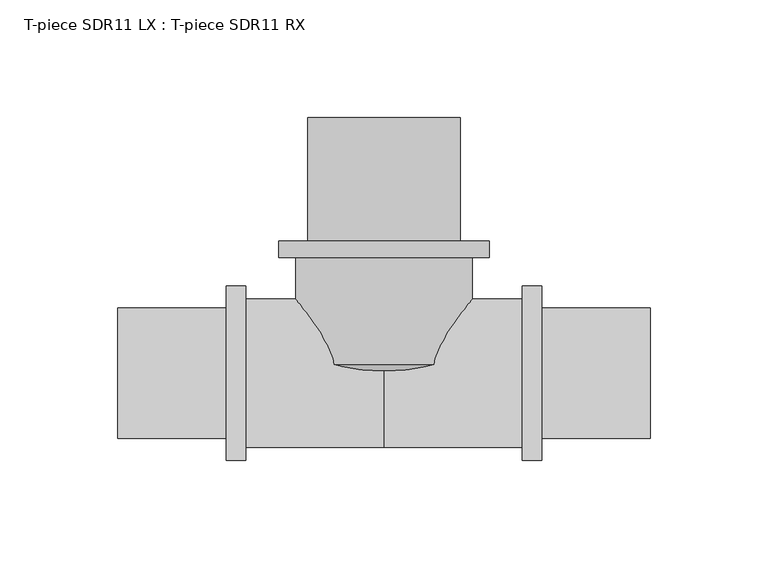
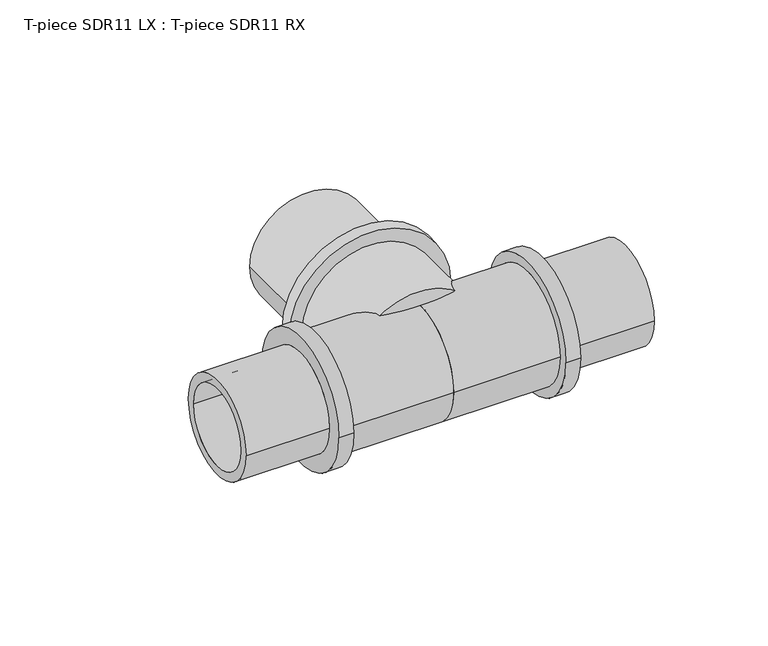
"""IFC4 building model written with IfcOpenShell, lengths in millimetres: pipe fitting geometry, T-piece SDR11 LX : T-piece SDR11 RX."""

from ifc_helpers import new_model, si_unit, point, frame, origin, place, context, project, spatial, polyline, circle_curve, ellipse_curve, trimmed, source, transform, mapped, element, save
from ifc_brep_helpers import plane_surface, cylinder_surface, revolved_surface, advanced_brep


def t_piece_sdr11_lx_t_piece_sdr11_rx_3943f51e(model_context):
    return source(origin(), model_context, "Body", "AdvancedBrep", [
        advanced_brep(
        [(37.5, 3.6905123, 0.0), (-37.5, 3.6905123, 0.0), (-37.5, 49.2, 0.0), (37.5, 49.2, 0.0), (26.8, 108.6, 0.0), (-26.8, 108.6, 0.0), (-26.8, 0.0, 0.0), (26.8, 0.0, 0.0), (32.45, 56.2, 0.0), (-32.45, 56.2, 0.0), (-32.45, 108.6, 0.0), (32.45, 108.6, 0.0), (44.75, 49.2, 0.0), (-44.75, 49.2, 0.0), (-44.75, 56.2, 0.0), (44.75, 56.2, 0.0)],
        [
            (0, 1, circle_curve(frame((0.0, 3.6905123, 0.0), z_axis=(0.0, 1.0, 0.0), x_axis=(-1.0, 0.0, 0.0)), 37.5)),
            (1, 2),
            (2, 3, circle_curve(frame((0.0, 49.2, 0.0), z_axis=(0.0, -1.0, 0.0), x_axis=(-1.0, 0.0, 0.0)), 37.5)),
            (3, 0),
            (4, 5, circle_curve(frame((0.0, 108.6, 0.0), z_axis=(0.0, 1.0, 0.0), x_axis=(-1.0, 0.0, 0.0)), 26.8)),
            (5, 6),
            (6, 7, circle_curve(frame((0.0, 0.0, 0.0), z_axis=(0.0, -1.0, 0.0), x_axis=(-1.0, 0.0, 0.0)), 26.8)),
            (7, 4),
            (8, 9, circle_curve(frame((0.0, 56.2, 0.0), z_axis=(0.0, 1.0, 0.0), x_axis=(-1.0, 0.0, 0.0)), 32.45)),
            (9, 10),
            (10, 11, circle_curve(frame((0.0, 108.6, 0.0), z_axis=(0.0, -1.0, 0.0), x_axis=(-1.0, 0.0, 0.0)), 32.45)),
            (11, 8),
            (12, 13, circle_curve(frame((0.0, 49.2, 0.0), z_axis=(0.0, 1.0, 0.0), x_axis=(-1.0, 0.0, 0.0)), 44.75)),
            (13, 14),
            (14, 15, circle_curve(frame((0.0, 56.2, 0.0), z_axis=(0.0, -1.0, 0.0), x_axis=(-1.0, 0.0, 0.0)), 44.75)),
            (15, 12),
            (12, 13, circle_curve(frame((0.0, 49.2, 0.0), z_axis=(0.0, -1.0, 0.0), x_axis=(1.0, 0.0, 0.0)), 44.75)),
            (2, 3, circle_curve(frame((0.0, 49.2, 0.0), z_axis=(0.0, 1.0, 0.0), x_axis=(1.0, 0.0, 0.0)), 37.5)),
            (1, 0, circle_curve(frame((0.0, 3.6905123, 0.0), z_axis=(0.0, 1.0, 0.0), x_axis=(1.0, 0.0, 0.0)), 37.5)),
            (5, 4, circle_curve(frame((0.0, 108.6, 0.0), z_axis=(0.0, 1.0, 0.0), x_axis=(1.0, 0.0, 0.0)), 26.8)),
            (7, 6, circle_curve(frame((0.0, 0.0, 0.0), z_axis=(0.0, -1.0, 0.0), x_axis=(1.0, 0.0, 0.0)), 26.8)),
            (10, 11, circle_curve(frame((0.0, 108.6, 0.0), z_axis=(0.0, 1.0, 0.0), x_axis=(1.0, 0.0, 0.0)), 32.45)),
            (9, 8, circle_curve(frame((0.0, 56.2, 0.0), z_axis=(0.0, 1.0, 0.0), x_axis=(1.0, 0.0, 0.0)), 32.45)),
            (14, 15, circle_curve(frame((0.0, 56.2, 0.0), z_axis=(0.0, 1.0, 0.0), x_axis=(1.0, 0.0, 0.0)), 44.75)),
            (6, 1, circle_curve(frame((-22.0462802, 31.1392381, 0.0), z_axis=(0.0, 0.0, -1.0), x_axis=(0.0, -1.0, 0.0)), 31.5)),
            (0, 7, circle_curve(frame((22.0462802, 31.1392381, 0.0), z_axis=(0.0, 0.0, -1.0), x_axis=(0.0, -1.0, 0.0)), 31.5)),
        ],
        [
            cylinder_surface(frame((0.0, 0.0, 0.0), z_axis=(0.0, -1.0, 0.0), x_axis=(-1.0, 0.0, 0.0)), 37.5),
            revolved_surface(polyline([(-26.8, 0.0, 0.0), (-26.8, 108.6, 0.0)]), (0.0, 0.0, 0.0), (0.0, -1.0, 0.0)),
            cylinder_surface(frame((0.0, 0.0, 0.0), z_axis=(0.0, -1.0, 0.0), x_axis=(-1.0, 0.0, 0.0)), 32.45),
            cylinder_surface(frame((0.0, 0.0, 0.0), z_axis=(0.0, -1.0, 0.0), x_axis=(-1.0, 0.0, 0.0)), 44.75),
            plane_surface(frame((0.0, 49.2, 0.0), z_axis=(0.0, -1.0, 0.0), x_axis=(1.0, 0.0, 0.0))),
            cylinder_surface(frame((0.0, 0.0, 0.0), z_axis=(0.0, -1.0, 0.0), x_axis=(1.0, 0.0, 0.0)), 37.5),
            revolved_surface(polyline([(26.8, 0.0, 0.0), (26.8, 108.6, 0.0)]), (0.0, 0.0, 0.0), (0.0, -1.0, 0.0)),
            plane_surface(frame((0.0, 108.6, 0.0), z_axis=(0.0, 1.0, 0.0), x_axis=(1.0, 0.0, 0.0))),
            cylinder_surface(frame((0.0, 0.0, 0.0), z_axis=(0.0, -1.0, 0.0), x_axis=(1.0, 0.0, 0.0)), 32.45),
            plane_surface(frame((0.0, 56.2, 0.0), z_axis=(0.0, 1.0, 0.0), x_axis=(1.0, 0.0, 0.0))),
            cylinder_surface(frame((0.0, 0.0, 0.0), z_axis=(0.0, -1.0, 0.0), x_axis=(1.0, 0.0, 0.0)), 44.75),
            revolved_surface(trimmed(ellipse_curve(frame((-22.0462802, 31.1392381, 0.0), z_axis=(0.0, 0.0, 1.0), x_axis=(0.0, -1.0, 0.0)), 31.5, 31.5), [point((-37.5, 3.6905123, 0.0))], [point((-26.8, 0.0, 0.0))], True, "CARTESIAN"), (0.0, 0.0, 0.0), (0.0, -1.0, 0.0)),
            revolved_surface(trimmed(ellipse_curve(frame((22.0462802, 31.1392381, 0.0), z_axis=(0.0, 0.0, -1.0), x_axis=(0.0, -1.0, 0.0)), 31.5, 31.5), [point((37.5, 3.6905123, 0.0))], [point((26.8, 0.0, 0.0))], True, "CARTESIAN"), (0.0, 0.0, 0.0), (0.0, -1.0, 0.0)),
        ],
        [
            (0, [[1, 2, 3, 4]]),
            (1, [[5, 6, 7, 8]]),
            (2, [[9, 10, 11, 12]]),
            (3, [[13, 14, 15, 16]]),
            (4, [[17, -13], [18, -3]]),
            (5, [[19, -4, -18, -2]]),
            (6, [[20, -8, 21, -6]]),
            (7, [[22, -11], [-20, -5]]),
            (8, [[23, -12, -22, -10]]),
            (9, [[24, -15], [-23, -9]]),
            (10, [[-17, -16, -24, -14]]),
            (11, [[-7, 25, -1, 26]]),
            (12, [[-21, -26, -19, -25]]),
        ],
    ),
        advanced_brep(
        [(58.8, 31.5, 0.0), (58.8, -31.5, 0.0), (0.0, -31.5, 0.0), (0.0, 31.5, 0.0), (0.0, 22.65, 0.0), (0.0, -22.65, 0.0), (113.1, -22.65, 0.0), (113.1, 22.65, 0.0), (113.1, 27.7, 0.0), (113.1, -27.7, 0.0), (67.0, -27.7, 0.0), (67.0, 27.7, 0.0), (67.0, 37.0, 0.0), (67.0, -37.0, 0.0), (58.8, -37.0, 0.0), (58.8, 37.0, 0.0)],
        [
            (0, 1, circle_curve(frame((58.8, 0.0, 0.0), z_axis=(-1.0, 0.0, 0.0), x_axis=(0.0, -1.0, 0.0)), 31.5)),
            (1, 2),
            (2, 3, circle_curve(frame((0.0, 0.0, 0.0), z_axis=(1.0, 0.0, 0.0), x_axis=(0.0, -1.0, 0.0)), 31.5)),
            (3, 0),
            (4, 5, circle_curve(frame((0.0, 0.0, 0.0), z_axis=(-1.0, 0.0, 0.0), x_axis=(0.0, -1.0, 0.0)), 22.65)),
            (5, 6),
            (6, 7, circle_curve(frame((113.1, 0.0, 0.0), z_axis=(1.0, 0.0, 0.0), x_axis=(0.0, -1.0, 0.0)), 22.65)),
            (7, 4),
            (8, 9, circle_curve(frame((113.1, 0.0, 0.0), z_axis=(-1.0, 0.0, 0.0), x_axis=(0.0, -1.0, 0.0)), 27.7)),
            (9, 10),
            (10, 11, circle_curve(frame((67.0, 0.0, 0.0), z_axis=(1.0, 0.0, 0.0), x_axis=(0.0, -1.0, 0.0)), 27.7)),
            (11, 8),
            (12, 13, circle_curve(frame((67.0, 0.0, 0.0), z_axis=(-1.0, 0.0, 0.0), x_axis=(0.0, -1.0, 0.0)), 37.0)),
            (13, 14),
            (14, 15, circle_curve(frame((58.8, 0.0, 0.0), z_axis=(1.0, 0.0, 0.0), x_axis=(0.0, -1.0, 0.0)), 37.0)),
            (15, 12),
            (14, 15, circle_curve(frame((58.8, 0.0, 0.0), z_axis=(-1.0, 0.0, 0.0), x_axis=(0.0, 1.0, 0.0)), 37.0)),
            (0, 1, circle_curve(frame((58.8, 0.0, 0.0), z_axis=(1.0, 0.0, 0.0), x_axis=(0.0, 1.0, 0.0)), 31.5)),
            (3, 2, circle_curve(frame((0.0, 0.0, 0.0), z_axis=(1.0, 0.0, 0.0), x_axis=(0.0, 1.0, 0.0)), 31.5)),
            (4, 5, circle_curve(frame((0.0, 0.0, 0.0), z_axis=(1.0, 0.0, 0.0), x_axis=(0.0, 1.0, 0.0)), 22.65)),
            (7, 6, circle_curve(frame((113.1, 0.0, 0.0), z_axis=(1.0, 0.0, 0.0), x_axis=(0.0, 1.0, 0.0)), 22.65)),
            (8, 9, circle_curve(frame((113.1, 0.0, 0.0), z_axis=(1.0, 0.0, 0.0), x_axis=(0.0, 1.0, 0.0)), 27.7)),
            (11, 10, circle_curve(frame((67.0, 0.0, 0.0), z_axis=(1.0, 0.0, 0.0), x_axis=(0.0, 1.0, 0.0)), 27.7)),
            (12, 13, circle_curve(frame((67.0, 0.0, 0.0), z_axis=(1.0, 0.0, 0.0), x_axis=(0.0, 1.0, 0.0)), 37.0)),
        ],
        [
            cylinder_surface(frame((0.0, 0.0, 0.0), z_axis=(1.0, 0.0, 0.0), x_axis=(0.0, -1.0, 0.0)), 31.5),
            revolved_surface(polyline([(113.1, -22.65, 0.0), (0.0, -22.65, 0.0)]), (0.0, 0.0, 0.0), (1.0, 0.0, 0.0)),
            cylinder_surface(frame((0.0, 0.0, 0.0), z_axis=(1.0, 0.0, 0.0), x_axis=(0.0, -1.0, 0.0)), 27.7),
            cylinder_surface(frame((0.0, 0.0, 0.0), z_axis=(1.0, 0.0, 0.0), x_axis=(0.0, -1.0, 0.0)), 37.0),
            plane_surface(frame((58.8, 0.0, 0.0), z_axis=(-1.0, 0.0, 0.0), x_axis=(0.0, 1.0, 0.0))),
            cylinder_surface(frame((0.0, 0.0, 0.0), z_axis=(1.0, 0.0, 0.0), x_axis=(0.0, 1.0, 0.0)), 31.5),
            plane_surface(frame((0.0, 0.0, 0.0), z_axis=(-1.0, 0.0, 0.0), x_axis=(0.0, 1.0, 0.0))),
            revolved_surface(polyline([(113.1, 22.65, 0.0), (0.0, 22.65, 0.0)]), (0.0, 0.0, 0.0), (1.0, 0.0, 0.0)),
            plane_surface(frame((113.1, 0.0, 0.0), z_axis=(1.0, 0.0, 0.0), x_axis=(0.0, 1.0, 0.0))),
            cylinder_surface(frame((0.0, 0.0, 0.0), z_axis=(1.0, 0.0, 0.0), x_axis=(0.0, 1.0, 0.0)), 27.7),
            plane_surface(frame((67.0, 0.0, 0.0), z_axis=(1.0, 0.0, 0.0), x_axis=(0.0, 1.0, 0.0))),
            cylinder_surface(frame((0.0, 0.0, 0.0), z_axis=(1.0, 0.0, 0.0), x_axis=(0.0, 1.0, 0.0)), 37.0),
        ],
        [
            (0, [[1, 2, 3, 4]]),
            (1, [[5, 6, 7, 8]]),
            (2, [[9, 10, 11, 12]]),
            (3, [[13, 14, 15, 16]]),
            (4, [[17, -15], [18, -1]]),
            (5, [[-18, -4, 19, -2]]),
            (6, [[-19, -3], [20, -5]]),
            (7, [[-20, -8, 21, -6]]),
            (8, [[22, -9], [-21, -7]]),
            (9, [[-22, -12, 23, -10]]),
            (10, [[24, -13], [-23, -11]]),
            (11, [[-24, -16, -17, -14]]),
        ],
    ),
        advanced_brep(
        [(0.0, 31.5, 0.0), (0.0, -31.5, 0.0), (-58.8, -31.5, 0.0), (-58.8, 31.5, 0.0), (-113.1, 22.65, 0.0), (-113.1, -22.65, 0.0), (0.0, -22.65, 0.0), (0.0, 22.65, 0.0), (-67.0, 27.7, 0.0), (-67.0, -27.7, 0.0), (-113.1, -27.7, 0.0), (-113.1, 27.7, 0.0), (-58.8, 37.0, 0.0), (-58.8, -37.0, 0.0), (-67.0, -37.0, 0.0), (-67.0, 37.0, 0.0)],
        [
            (0, 1, circle_curve(frame((0.0, 0.0, 0.0), z_axis=(-1.0, 0.0, 0.0), x_axis=(0.0, -1.0, 0.0)), 31.5)),
            (1, 2),
            (2, 3, circle_curve(frame((-58.8, 0.0, 0.0), z_axis=(1.0, 0.0, 0.0), x_axis=(0.0, -1.0, 0.0)), 31.5)),
            (3, 0),
            (4, 5, circle_curve(frame((-113.1, 0.0, 0.0), z_axis=(-1.0, 0.0, 0.0), x_axis=(0.0, -1.0, 0.0)), 22.65)),
            (5, 6),
            (6, 7, circle_curve(frame((0.0, 0.0, 0.0), z_axis=(1.0, 0.0, 0.0), x_axis=(0.0, -1.0, 0.0)), 22.65)),
            (7, 4),
            (8, 9, circle_curve(frame((-67.0, 0.0, 0.0), z_axis=(-1.0, 0.0, 0.0), x_axis=(0.0, -1.0, 0.0)), 27.7)),
            (9, 10),
            (10, 11, circle_curve(frame((-113.1, 0.0, 0.0), z_axis=(1.0, 0.0, 0.0), x_axis=(0.0, -1.0, 0.0)), 27.7)),
            (11, 8),
            (12, 13, circle_curve(frame((-58.8, 0.0, 0.0), z_axis=(-1.0, 0.0, 0.0), x_axis=(0.0, -1.0, 0.0)), 37.0)),
            (13, 14),
            (14, 15, circle_curve(frame((-67.0, 0.0, 0.0), z_axis=(1.0, 0.0, 0.0), x_axis=(0.0, -1.0, 0.0)), 37.0)),
            (15, 12),
            (12, 13, circle_curve(frame((-58.8, 0.0, 0.0), z_axis=(1.0, 0.0, 0.0), x_axis=(0.0, 1.0, 0.0)), 37.0)),
            (2, 3, circle_curve(frame((-58.8, 0.0, 0.0), z_axis=(-1.0, 0.0, 0.0), x_axis=(0.0, 1.0, 0.0)), 31.5)),
            (1, 0, circle_curve(frame((0.0, 0.0, 0.0), z_axis=(-1.0, 0.0, 0.0), x_axis=(0.0, 1.0, 0.0)), 31.5)),
            (6, 7, circle_curve(frame((0.0, 0.0, 0.0), z_axis=(-1.0, 0.0, 0.0), x_axis=(0.0, 1.0, 0.0)), 22.65)),
            (5, 4, circle_curve(frame((-113.1, 0.0, 0.0), z_axis=(-1.0, 0.0, 0.0), x_axis=(0.0, 1.0, 0.0)), 22.65)),
            (10, 11, circle_curve(frame((-113.1, 0.0, 0.0), z_axis=(-1.0, 0.0, 0.0), x_axis=(0.0, 1.0, 0.0)), 27.7)),
            (9, 8, circle_curve(frame((-67.0, 0.0, 0.0), z_axis=(-1.0, 0.0, 0.0), x_axis=(0.0, 1.0, 0.0)), 27.7)),
            (14, 15, circle_curve(frame((-67.0, 0.0, 0.0), z_axis=(-1.0, 0.0, 0.0), x_axis=(0.0, 1.0, 0.0)), 37.0)),
        ],
        [
            cylinder_surface(frame((0.0, 0.0, 0.0), z_axis=(1.0, 0.0, 0.0), x_axis=(0.0, -1.0, 0.0)), 31.5),
            revolved_surface(polyline([(0.0, -22.65, 0.0), (-113.1, -22.65, 0.0)]), (0.0, 0.0, 0.0), (1.0, 0.0, 0.0)),
            cylinder_surface(frame((0.0, 0.0, 0.0), z_axis=(1.0, 0.0, 0.0), x_axis=(0.0, -1.0, 0.0)), 27.7),
            cylinder_surface(frame((0.0, 0.0, 0.0), z_axis=(1.0, 0.0, 0.0), x_axis=(0.0, -1.0, 0.0)), 37.0),
            plane_surface(frame((-58.8, 0.0, 0.0), z_axis=(1.0, 0.0, 0.0), x_axis=(0.0, 1.0, 0.0))),
            cylinder_surface(frame((0.0, 0.0, 0.0), z_axis=(1.0, 0.0, 0.0), x_axis=(0.0, 1.0, 0.0)), 31.5),
            plane_surface(frame((0.0, 0.0, 0.0), z_axis=(1.0, 0.0, 0.0), x_axis=(0.0, 1.0, 0.0))),
            revolved_surface(polyline([(0.0, 22.65, 0.0), (-113.1, 22.65, 0.0)]), (0.0, 0.0, 0.0), (1.0, 0.0, 0.0)),
            plane_surface(frame((-113.1, 0.0, 0.0), z_axis=(-1.0, 0.0, 0.0), x_axis=(0.0, 1.0, 0.0))),
            cylinder_surface(frame((0.0, 0.0, 0.0), z_axis=(1.0, 0.0, 0.0), x_axis=(0.0, 1.0, 0.0)), 27.7),
            plane_surface(frame((-67.0, 0.0, 0.0), z_axis=(-1.0, 0.0, 0.0), x_axis=(0.0, 1.0, 0.0))),
            cylinder_surface(frame((0.0, 0.0, 0.0), z_axis=(1.0, 0.0, 0.0), x_axis=(0.0, 1.0, 0.0)), 37.0),
        ],
        [
            (0, [[1, 2, 3, 4]]),
            (1, [[5, 6, 7, 8]]),
            (2, [[9, 10, 11, 12]]),
            (3, [[13, 14, 15, 16]]),
            (4, [[17, -13], [18, -3]]),
            (5, [[19, -4, -18, -2]]),
            (6, [[-19, -1], [20, -7]]),
            (7, [[21, -8, -20, -6]]),
            (8, [[22, -11], [-21, -5]]),
            (9, [[23, -12, -22, -10]]),
            (10, [[24, -15], [-23, -9]]),
            (11, [[-17, -16, -24, -14]]),
        ],
    ),
    ])


if __name__ == "__main__":
    model = new_model("IFC4")
    model_context = context("Model", 3, world=origin())
    ifc_project = project(units=[si_unit("LENGTHUNIT", "METRE", prefix="MILLI")], contexts=[model_context])
    site = spatial("IfcSite", under=ifc_project)
    building = spatial("IfcBuilding", under=site)
    placement = place(None, origin())
    t_piece_sdr11_lx_t_piece_sdr11_rx_shape = t_piece_sdr11_lx_t_piece_sdr11_rx_3943f51e(model_context)
    element("IfcPipeFitting", 1, ObjectType="T-piece SDR11 LX : T-piece SDR11 RX", at=placement, inside=building, context=model_context, shape_type="MappedRepresentation", body=[
        mapped(t_piece_sdr11_lx_t_piece_sdr11_rx_shape, transform((0.0, 0.0, 0.0), x_axis=(1.0, 0.0, 0.0), y_axis=(0.0, 1.0, 0.0), z_axis=(0.0, 0.0, 1.0))),
    ])
    save(model, "model.ifc")
